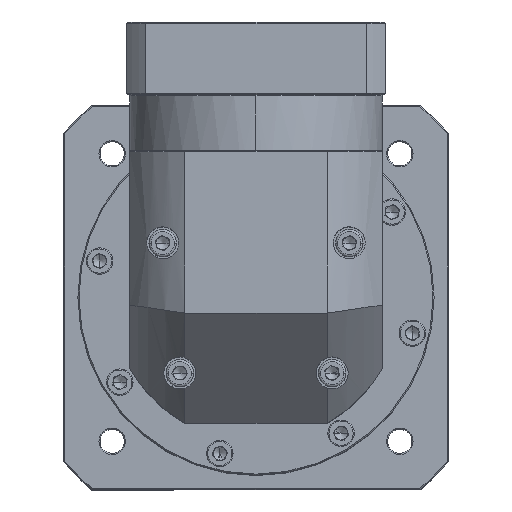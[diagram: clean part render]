
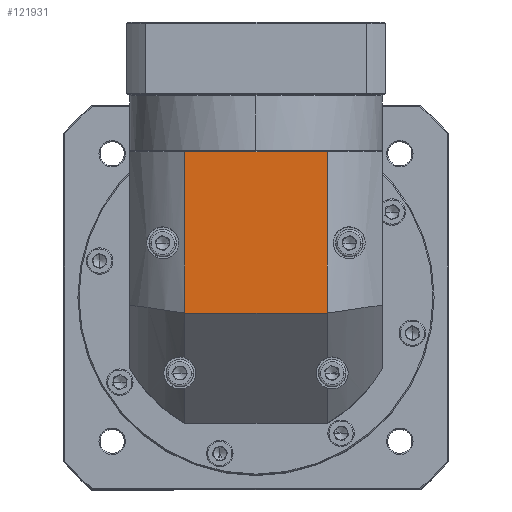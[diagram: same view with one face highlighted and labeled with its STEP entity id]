
A CAD part, top view. The second image highlights one B-rep face of the part: STEP entity #121931.
In plain terms, the highlighted planar face has unit normal (0, 0, 1).
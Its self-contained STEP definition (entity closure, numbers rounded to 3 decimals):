
#1545 = AXIS2_PLACEMENT_3D ( 'NONE', #132565, #20902, #66522 ) ;
#9279 = VERTEX_POINT ( 'NONE', #9321 ) ;
#9321 = CARTESIAN_POINT ( 'NONE',  ( -122.457, 63.724, 456.8 ) ) ;
#20902 = DIRECTION ( 'NONE',  ( 0., 0., -1. ) ) ;
#27146 = VECTOR ( 'NONE', #143971, 1000. ) ;
#33925 = CARTESIAN_POINT ( 'NONE',  ( -122.457, -59.676, 456.8 ) ) ;
#40243 = DIRECTION ( 'NONE',  ( 0., -1., 0. ) ) ;
#42718 = PLANE ( 'NONE',  #1545 ) ;
#51053 = ORIENTED_EDGE ( 'NONE', *, *, #110612, .F. ) ;
#53525 = CARTESIAN_POINT ( 'NONE',  ( -122.457, -9.676, 456.8 ) ) ;
#54376 = VERTEX_POINT ( 'NONE', #67932 ) ;
#55523 = CARTESIAN_POINT ( 'NONE',  ( -147.557, -9.676, 456.8 ) ) ;
#57841 = CARTESIAN_POINT ( 'NONE',  ( -57.657, -9.676, 456.8 ) ) ;
#58138 = DIRECTION ( 'NONE',  ( 0., 1., 0. ) ) ;
#60781 = VERTEX_POINT ( 'NONE', #57841 ) ;
#66522 = DIRECTION ( 'NONE',  ( 1., 0., 0. ) ) ;
#67932 = CARTESIAN_POINT ( 'NONE',  ( -57.657, 63.724, 456.8 ) ) ;
#73749 = CARTESIAN_POINT ( 'NONE',  ( -57.657, -59.676, 456.8 ) ) ;
#74448 = LINE ( 'NONE', #124991, #100598 ) ;
#78441 = VECTOR ( 'NONE', #40243, 1000. ) ;
#84254 = VERTEX_POINT ( 'NONE', #53525 ) ;
#86463 = EDGE_CURVE ( 'NONE', #84254, #9279, #133050, .T. ) ;
#87564 = EDGE_LOOP ( 'NONE', ( #98640, #51053, #141479, #121324 ) ) ;
#91479 = LINE ( 'NONE', #55523, #27146 ) ;
#92556 = DIRECTION ( 'NONE',  ( 1., 0., 0. ) ) ;
#98640 = ORIENTED_EDGE ( 'NONE', *, *, #86463, .F. ) ;
#100598 = VECTOR ( 'NONE', #92556, 1000. ) ;
#103566 = VECTOR ( 'NONE', #58138, 1000. ) ;
#104311 = EDGE_CURVE ( 'NONE', #9279, #54376, #74448, .T. ) ;
#110612 = EDGE_CURVE ( 'NONE', #60781, #84254, #91479, .T. ) ;
#118384 = FACE_OUTER_BOUND ( 'NONE', #87564, .T. ) ;
#121324 = ORIENTED_EDGE ( 'NONE', *, *, #104311, .F. ) ;
#121931 = ADVANCED_FACE ( 'NONE', ( #118384 ), #42718, .F. ) ;
#124991 = CARTESIAN_POINT ( 'NONE',  ( -147.557, 63.724, 456.8 ) ) ;
#132565 = CARTESIAN_POINT ( 'NONE',  ( -90.057, -2.176, 456.8 ) ) ;
#133050 = LINE ( 'NONE', #33925, #103566 ) ;
#139311 = LINE ( 'NONE', #73749, #78441 ) ;
#141401 = EDGE_CURVE ( 'NONE', #54376, #60781, #139311, .T. ) ;
#141479 = ORIENTED_EDGE ( 'NONE', *, *, #141401, .F. ) ;
#143971 = DIRECTION ( 'NONE',  ( -1., 0., 0. ) ) ;
